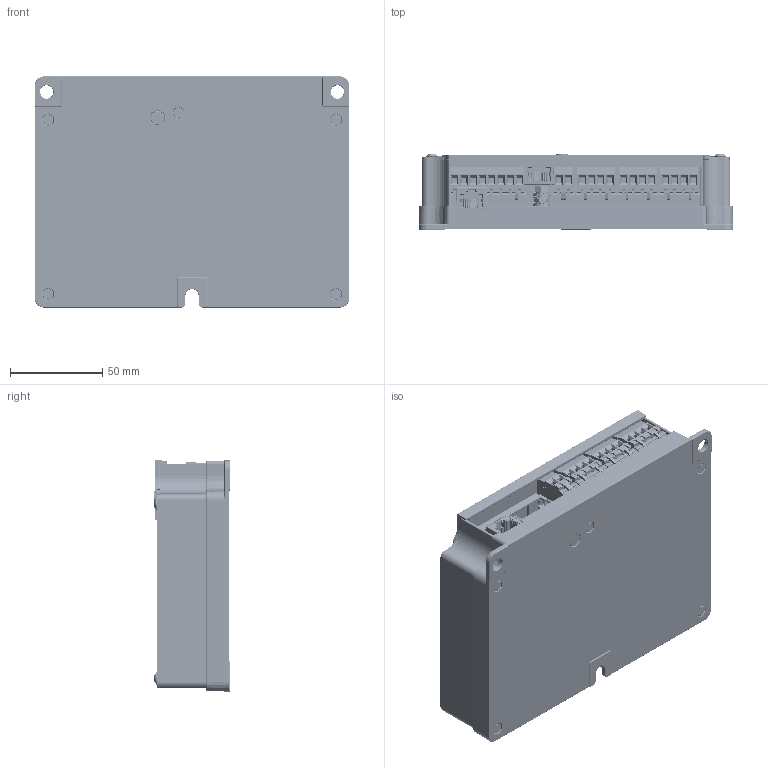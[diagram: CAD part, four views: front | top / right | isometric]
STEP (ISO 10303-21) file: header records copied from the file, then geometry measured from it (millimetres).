
FILE_DESCRIPTION (( 'STEP AP214' ), '1' );
FILE_NAME ('WIC1-4 g2 [DUAL Power and Electrical Ethernet]1.STEP', '2024-12-19T15:24:37', ( '' ), ( '' ), 'SwSTEP 2.0', 'SolidWorks 2023', '' );
FILE_SCHEMA (( 'AUTOMOTIVE_DESIGN' ));
Length unit declared in the file: millimetre
Products named in the file (1): WIC1-4 g2 [DUAL Power and Electrical Ethernet]1
Bounding box: 170 x 41.23 x 125 mm (x, y, z)
Surface area: 326934.7 mm2 (no closed solid volume)
Topology: 0 solids, 53 shells, 8525 faces, 25445 edges, 17675 vertices
Faces by surface type: plane 5162, cylinder 1929, bspline 942, cone 277, torus 145, sphere 70
Full cylindrical faces by diameter (mm): 1 x8, 1.14 x5, 1.45 x22, 1.5 x18, 1.52 x2, 1.6 x2, 2 x2, 2.5 x1, 2.76 x22, 3 x5, 3.25 x2, 3.3 x2, 3.7 x10, 3.85 x10, 4 x12, 4.1 x5, 4.3 x5, 4.5 x8, 4.9 x10, 5.2 x6, 5.5 x3, 7 x5, 8.2 x1, 9 x3, 10 x5, 10.2 x5
Entity records: 391758 total; most frequent: CARTESIAN_POINT 98807, ORIENTED_EDGE 49804, DIRECTION 38062, EDGE_CURVE 24902, VERTEX_POINT 17559, LINE 15924, VECTOR 15924, AXIS2_PLACEMENT_3D 11069
